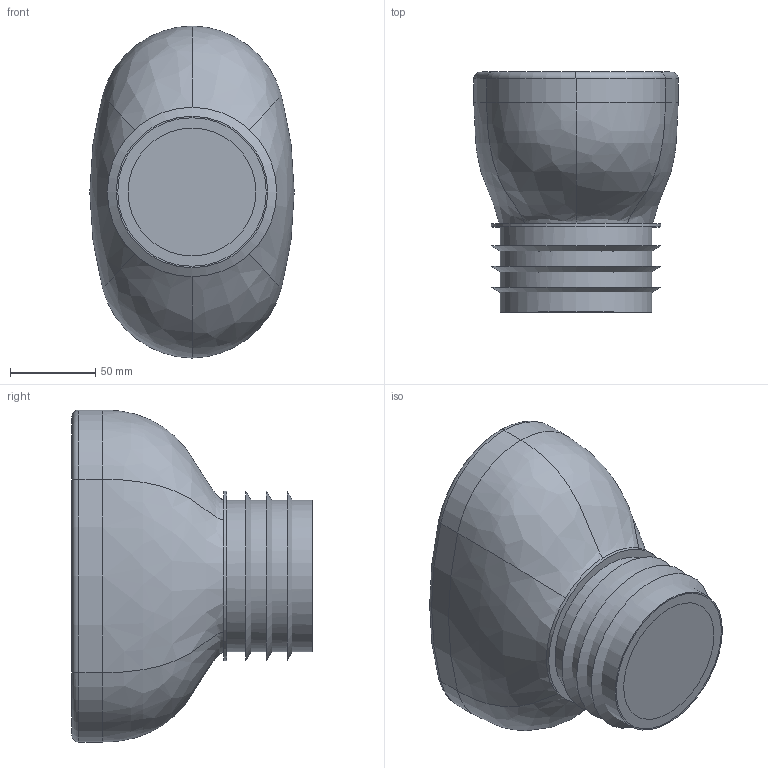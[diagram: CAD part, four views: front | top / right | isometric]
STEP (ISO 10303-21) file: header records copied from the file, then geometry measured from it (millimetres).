
FILE_DESCRIPTION(/* description */ (''),/* implementation_level */ '2;1');
FILE_NAME(/* name */ 'Z:\Geberit\Export\NewStep\I_GRB90_Belüftungsventil\stp\310007.stp',/* time_stamp */ '2014-04-03T18:08:52+02:00',/* author */ ('Bründl'),/* organization */ (''),/* preprocessor_version */ 'ST-DEVELOPER v15.2',/* originating_system */ 'Autodesk Inventor 2014',/* authorisation */ '');
FILE_SCHEMA (('AUTOMOTIVE_DESIGN { 1 0 10303 214 3 1 1 }'));
Length unit declared in the file: millimetre
Products named in the file (3): I_GRB90_Belüftungsventil; 310007
Bounding box: 120 x 141 x 194.98 mm (x, y, z)
Volume: 1817741.2 mm3; surface area: 164679.7 mm2
Topology: 3 solids, 3 shells, 38 faces, 77 edges, 49 vertices
Faces by surface type: cylinder 13, plane 10, torus 6, bspline 6, cone 3
Full cylindrical faces by diameter (mm): 75 x1, 87.25 x4, 88.9 x1, 99.5 x1
Entity records: 1214 total; most frequent: CARTESIAN_POINT 377, DIRECTION 182, ORIENTED_EDGE 130, AXIS2_PLACEMENT_3D 88, EDGE_CURVE 65, EDGE_LOOP 54, CIRCLE 51, VERTEX_POINT 47
